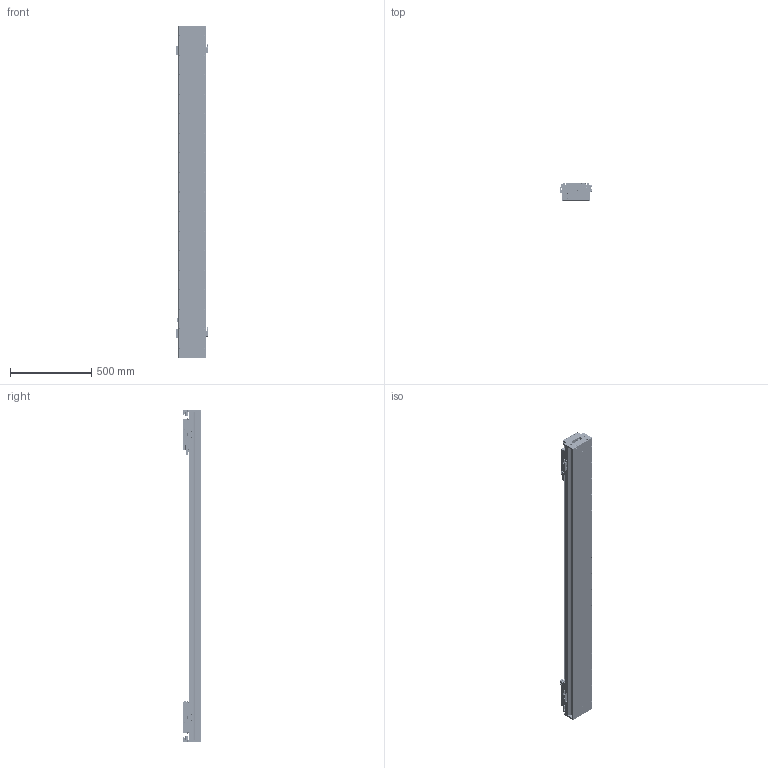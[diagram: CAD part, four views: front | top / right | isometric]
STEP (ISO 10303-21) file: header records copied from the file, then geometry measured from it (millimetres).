
FILE_DESCRIPTION (( 'STEP AP203' ), '1' );
FILE_NAME ('DKW168-2×C2-W090（T1520-L005-0.2）.STEP', '2022-03-08T01:13:11', ( '微软用户' ), ( '微软中国' ), 'SwSTEP 2.0', 'SolidWorks 2018', '' );
FILE_SCHEMA (( 'CONFIG_CONTROL_DESIGN' ));
Length unit declared in the file: millimetre
Products named in the file (24): DKW-SG-GYP-H-00 嫖萇覜茼え; DKW168 单轴模组-拉钢带组件; 10392-0001-001-00 菁釱; 嫖萇羲壽蚾饜极A; CKM01-W090-TRL280; MSA20絳寢; C2-W090_00; DKW168-RU-DTJ-00 RU2黍杅芛盓殤; 10279-0001-003-00 傷啣; DKW168-HXJ-ZJ-00 笢潔滅袉砎蝶; RUS嫖掑喜; DKW168-HXJ-00 遣喳砎蝶; DKW-GYP-ZJ-00 笢潔嫖萇覜茼え; Ru2; 10392-0001-002-00 詩湍裔啣; DKW-KGZ-ZJ-00 中间光电开关支架; pm-y65; 10392-0001-003-00 詩湍嶺輸; EE_SX674A; 10980-0001-003-00 嫖萇羲壽嘐隅釱; 10392-0001-004-00 詩湍揤輸; DKW168-2×C2-W090（T1520-L005-0.2）; 嫖萇羲壽蚾饜极; 10279-0001-006-00 嶺輸菜輸
Assembly tree (39 placements, depth 3):
  DKW168-2×C2-W090（T1520-L005-0.2）
    10392-0001-001-00 菁釱
    MSA20絳寢  x2
    DKW168 单轴模组-拉钢带组件
      10279-0001-003-00 傷啣  x2
      DKW168-HXJ-00 遣喳砎蝶  x4
      10392-0001-002-00 詩湍裔啣
      10392-0001-003-00 詩湍嶺輸  x2
      10392-0001-004-00 詩湍揤輸  x2
      10279-0001-006-00 嶺輸菜輸  x2
    CKM01-W090-TRL280
    DKW168-RU-DTJ-00 RU2黍杅芛盓殤  x2
    RUS嫖掑喜
    Ru2  x2
    嫖萇羲壽蚾饜极
      pm-y65  x2
      10980-0001-003-00 嫖萇羲壽嘐隅釱
    DKW-SG-GYP-H-00 嫖萇覜茼え  x2
    嫖萇羲壽蚾饜极A
      pm-y65  x2
      10980-0001-003-00 嫖萇羲壽嘐隅釱
    C2-W090_00  x2
    DKW168-HXJ-ZJ-00 笢潔滅袉砎蝶
    DKW-GYP-ZJ-00 笢潔嫖萇覜茼え
    DKW-KGZ-ZJ-00 中间光电开关支架
    EE_SX674A
Bounding box: 202.3 x 109 x 2040 mm (x, y, z)
Volume: 14498360.5 mm3; surface area: 3825029.4 mm2
Topology: 74 solids, 172 shells, 7538 faces, 19532 edges, 12481 vertices
Faces by surface type: plane 4084, cylinder 2084, cone 748, bspline 558, torus 32, sphere 32
Entity records: 145881 total; most frequent: CARTESIAN_POINT 46123, ORIENTED_EDGE 20243, DIRECTION 19297, EDGE_CURVE 10162, VERTEX_POINT 6592, AXIS2_PLACEMENT_3D 6455, LINE 6387, VECTOR 6387
